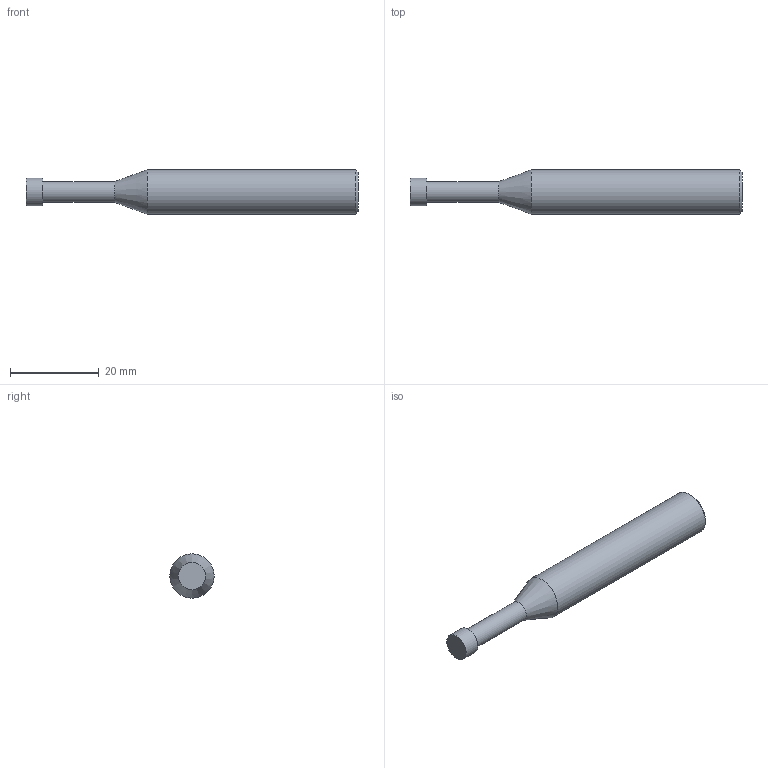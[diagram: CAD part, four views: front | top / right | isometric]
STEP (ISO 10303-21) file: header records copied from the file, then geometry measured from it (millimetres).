
FILE_DESCRIPTION(/* description */ (''),/* implementation_level */ '2;1');
FILE_NAME(/* name */ 'HSXDT-1.25-20 1075.stp',/* time_stamp */ '2026-02-24T09:22:42+08:00',/* author */ (''),/* organization */ (''),/* preprocessor_version */ 'ST-DEVELOPER v16',/* originating_system */ 'SIEMENS PLM Software NX 10.0',/* authorisation */ '');
FILE_SCHEMA (('CONFIG_CONTROL_DESIGN'));
Length unit declared in the file: millimetre
Products named in the file (1): HSXDT-1.25-20 1075_dxf
Bounding box: 75 x 10 x 10 mm (x, y, z)
Volume: 4451.3 mm3; surface area: 2099.8 mm2
Topology: 1 solids, 1 shells, 8 faces, 12 edges, 7 vertices
Faces by surface type: plane 3, cylinder 3, cone 2
Full cylindrical faces by diameter (mm): 4.65 x1, 6.2 x1, 10 x1
Entity records: 238 total; most frequent: DIRECTION 32, CARTESIAN_POINT 23, AXIS2_PLACEMENT_3D 16, EDGE_LOOP 14, ORIENTED_EDGE 14, FACE_BOUND 12, ADVANCED_FACE 8, PERSON_AND_ORGANIZATION 7
